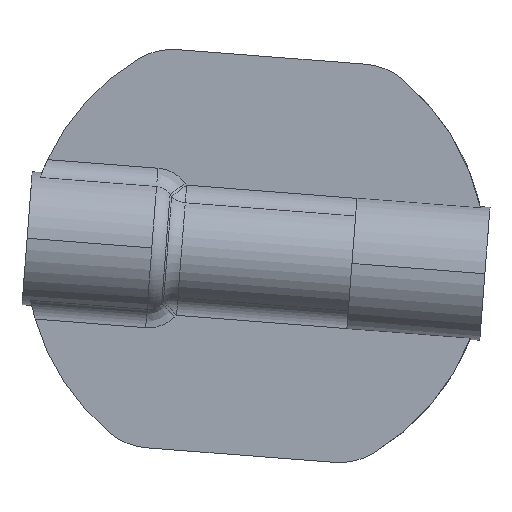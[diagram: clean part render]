
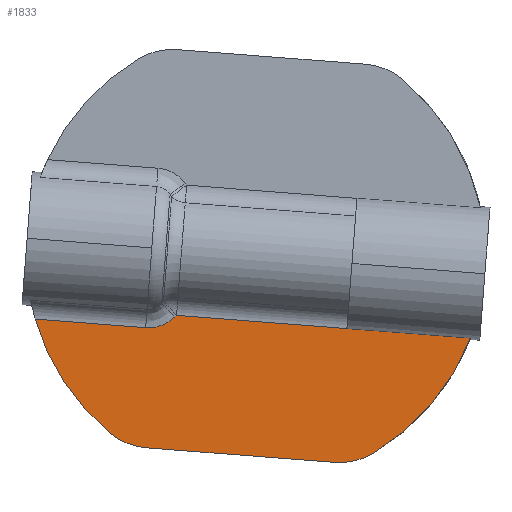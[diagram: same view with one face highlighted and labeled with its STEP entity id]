
A CAD part, front view. The second image highlights one B-rep face of the part: STEP entity #1833.
In plain terms, the highlighted planar face has unit normal (0, -1, 0).
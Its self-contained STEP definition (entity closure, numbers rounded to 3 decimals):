
#1=DIRECTION('',(0.997,0.,-0.077));
#2=VECTOR('',#1,12.819);
#3=CARTESIAN_POINT('',(927.389,-1.,110.892));
#4=LINE('',#3,#2);
#5=DIRECTION('',(0.997,0.,-0.077));
#6=VECTOR('',#5,9.288);
#7=CARTESIAN_POINT('',(940.17,-1.,109.901));
#8=LINE('',#7,#6);
#9=CARTESIAN_POINT('',(939.607,-1.,104.847));
#10=DIRECTION('',(0.,-1.,0.));
#11=DIRECTION('',(-0.077,0.,-0.997));
#12=AXIS2_PLACEMENT_3D('',#9,#10,#11);
#14=DIRECTION('',(-0.997,0.,0.077));
#15=VECTOR('',#14,14.1);
#16=CARTESIAN_POINT('',(939.221,-1.,99.862));
#17=LINE('',#16,#15);
#18=CARTESIAN_POINT('',(925.55,-1.,105.937));
#19=DIRECTION('',(0.,-1.,0.));
#20=DIRECTION('',(-0.638,0.,-0.77));
#21=AXIS2_PLACEMENT_3D('',#18,#19,#20);
#23=DIRECTION('',(0.997,0.,-0.077));
#24=VECTOR('',#23,8.3);
#25=CARTESIAN_POINT('',(916.794,-1.,110.609));
#26=LINE('',#25,#24);
#27=CARTESIAN_POINT('',(925.068,-1.,109.968));
#28=CARTESIAN_POINT('',(925.182,-1.,109.959));
#29=CARTESIAN_POINT('',(925.407,-1.,109.956));
#30=CARTESIAN_POINT('',(925.73,-1.,109.989));
#31=CARTESIAN_POINT('',(926.053,-1.,110.061));
#32=CARTESIAN_POINT('',(926.368,-1.,110.172));
#33=CARTESIAN_POINT('',(926.672,-1.,110.321));
#34=CARTESIAN_POINT('',(926.975,-1.,110.517));
#35=CARTESIAN_POINT('',(927.165,-1.,110.677));
#36=CARTESIAN_POINT('',(927.258,-1.,110.766));
#38=CARTESIAN_POINT('',(927.258,-1.,110.766));
#39=CARTESIAN_POINT('',(927.272,-1.,110.78));
#40=CARTESIAN_POINT('',(927.301,-1.,110.808));
#41=CARTESIAN_POINT('',(927.345,-1.,110.85));
#42=CARTESIAN_POINT('',(927.375,-1.,110.878));
#43=CARTESIAN_POINT('',(927.389,-1.,110.892));
#220=CARTESIAN_POINT('',(933.35,-1.,115.343));
#221=DIRECTION('',(0.,-1.,0.));
#222=DIRECTION('',(-0.961,0.,-0.275));
#223=AXIS2_PLACEMENT_3D('',#220,#221,#222);
#1101=CARTESIAN_POINT('',(933.35,-1.,115.343));
#1102=DIRECTION('',(0.,-1.,0.));
#1103=DIRECTION('',(0.512,0.,-0.859));
#1104=AXIS2_PLACEMENT_3D('',#1101,#1102,#1103);
#1626=CARTESIAN_POINT('',(939.221,-1.,99.862));
#1627=CARTESIAN_POINT('',(942.167,-1.,100.552));
#1628=VERTEX_POINT('',#1626);
#1629=VERTEX_POINT('',#1627);
#1642=CARTESIAN_POINT('',(922.358,-1.,102.088));
#1643=CARTESIAN_POINT('',(925.163,-1.,100.952));
#1644=VERTEX_POINT('',#1642);
#1645=VERTEX_POINT('',#1643);
#1665=CARTESIAN_POINT('',(940.17,-1.,109.901));
#1667=VERTEX_POINT('',#1665);
#1668=CARTESIAN_POINT('',(927.389,-1.,110.892));
#1669=VERTEX_POINT('',#1668);
#1674=VERTEX_POINT('',#38);
#1680=CARTESIAN_POINT('',(916.794,-1.,110.609));
#1681=CARTESIAN_POINT('',(925.068,-1.,109.968));
#1682=VERTEX_POINT('',#1680);
#1683=VERTEX_POINT('',#1681);
#1738=CARTESIAN_POINT('',(949.43,-1.,109.183));
#1739=VERTEX_POINT('',#1738);
#1806=CARTESIAN_POINT('',(0.,-1.,0.));
#1807=DIRECTION('',(0.,1.,0.));
#1808=DIRECTION('',(1.,0.,0.));
#1809=AXIS2_PLACEMENT_3D('',#1806,#1807,#1808);
#1810=PLANE('',#1809);
#1812=ORIENTED_EDGE('',*,*,#1811,.T.);
#1814=ORIENTED_EDGE('',*,*,#1813,.T.);
#1816=ORIENTED_EDGE('',*,*,#1815,.F.);
#1818=ORIENTED_EDGE('',*,*,#1817,.F.);
#1820=ORIENTED_EDGE('',*,*,#1819,.T.);
#1822=ORIENTED_EDGE('',*,*,#1821,.F.);
#1824=ORIENTED_EDGE('',*,*,#1823,.F.);
#1826=ORIENTED_EDGE('',*,*,#1825,.T.);
#1828=ORIENTED_EDGE('',*,*,#1827,.T.);
#1830=ORIENTED_EDGE('',*,*,#1829,.T.);
#1831=EDGE_LOOP('',(#1812,#1814,#1816,#1818,#1820,#1822,#1824,#1826,#1828,
#1830));
#1832=FACE_OUTER_BOUND('',#1831,.F.);
#1833=ADVANCED_FACE('',(#1832),#1810,.F.);
#13=CIRCLE('',#12,5.);
#22=CIRCLE('',#21,5.);
#37=B_SPLINE_CURVE_WITH_KNOTS('',3,(#27,#28,#29,#30,#31,#32,#33,#34,#35,#36),
.UNSPECIFIED.,.F.,.F.,(4,1,1,1,1,1,1,4),(0.,0.143,
0.286,0.429,0.571,0.714,
0.857,1.),.UNSPECIFIED.);
#44=B_SPLINE_CURVE_WITH_KNOTS('',3,(#38,#39,#40,#41,#42,#43),.UNSPECIFIED.,.F.,
.F.,(4,1,1,4),(0.,0.333,0.667,1.),.UNSPECIFIED.);
#224=CIRCLE('',#223,17.22);
#1105=CIRCLE('',#1104,17.22);
#1811=EDGE_CURVE('',#1669,#1667,#4,.T.);
#1813=EDGE_CURVE('',#1667,#1739,#8,.T.);
#1815=EDGE_CURVE('',#1629,#1739,#1105,.T.);
#1817=EDGE_CURVE('',#1628,#1629,#13,.T.);
#1819=EDGE_CURVE('',#1628,#1645,#17,.T.);
#1821=EDGE_CURVE('',#1644,#1645,#22,.T.);
#1823=EDGE_CURVE('',#1682,#1644,#224,.T.);
#1825=EDGE_CURVE('',#1682,#1683,#26,.T.);
#1827=EDGE_CURVE('',#1683,#1674,#37,.T.);
#1829=EDGE_CURVE('',#1674,#1669,#44,.T.);
